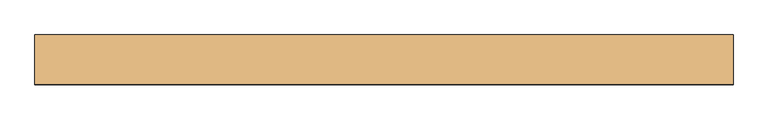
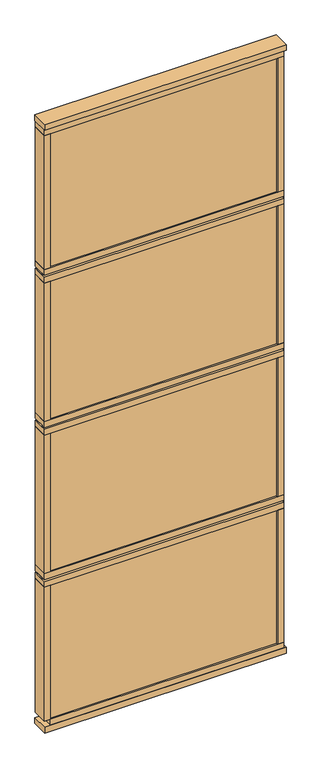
"""IFC4 building model written with IfcOpenShell, lengths in millimetres: door geometry, Mobiliário_Mobiliário de Escritório_Painel de Vidro Duplo - AV4T (Complementar)_Marelli : AV4T - Temperado."""

from ifc_helpers import new_model, si_unit, frame, origin, origin_with_axes, place, context, project, spatial, polyline, outline, extrude, source, transform, mapped, element, save


def door_cfb25988(model_context):
    return source(origin(), model_context, "Body", "SweptSolid", [
        extrude(outline(polyline([(600.0, 42.5), (600.0, -42.5), (-600.0, -42.5), (-600.0, 42.5), (600.0, 42.5)])), origin_with_axes(), (0.0, 0.0, 1.0), 30.0),
        extrude(outline(polyline([(590.0, 39.5), (590.0, -39.5), (-600.0, -39.5), (-600.0, 39.5), (590.0, 39.5)])), frame((0.0, 0.0, 2405.0), z_axis=(0.0, 0.0, 1.0), x_axis=(1.0, 0.0, 0.0)), (0.0, 0.0, 1.0), 30.0),
        extrude(outline(polyline([(-570.0, 39.5), (-570.0, -39.5), (-600.0, -39.5), (-600.0, 39.5), (-570.0, 39.5)])), frame((0.0, 0.0, 2435.0), z_axis=(0.0, 0.0, 1.0), x_axis=(1.0, 0.0, 0.0)), (0.0, 0.0, 1.0), 705.0),
        extrude(outline(polyline([(560.0, 39.5), (590.0, 39.5), (590.0, -39.5), (560.0, -39.5), (560.0, 39.5)])), frame((0.0, 0.0, 2435.0), z_axis=(0.0, 0.0, 1.0), x_axis=(1.0, 0.0, 0.0)), (0.0, 0.0, 1.0), 705.0),
        extrude(outline(polyline([(560.0, -25.5), (560.0, -31.5), (-570.0, -31.5), (-570.0, -25.5), (560.0, -25.5)])), frame((0.0, 0.0, 2435.0), z_axis=(0.0, 0.0, 1.0), x_axis=(1.0, 0.0, 0.0)), (0.0, 0.0, 1.0), 705.0),
        extrude(outline(polyline([(590.0, 21.5), (590.0, -21.5), (-600.0, -21.5), (-600.0, 21.5), (590.0, 21.5)])), frame((0.0, 0.0, 2395.0), z_axis=(0.0, 0.0, 1.0), x_axis=(1.0, 0.0, 0.0)), (0.0, 0.0, 1.0), 10.0),
        extrude(outline(polyline([(590.0, 21.5), (590.0, -21.5), (-600.0, -21.5), (-600.0, 21.5), (590.0, 21.5)])), frame((0.0, 0.0, 1595.0), z_axis=(0.0, 0.0, 1.0), x_axis=(1.0, 0.0, 0.0)), (0.0, 0.0, 1.0), 10.0),
        extrude(outline(polyline([(590.0, 21.5), (590.0, -21.5), (-600.0, -21.5), (-600.0, 21.5), (590.0, 21.5)])), frame((0.0, 0.0, 795.0), z_axis=(0.0, 0.0, 1.0), x_axis=(1.0, 0.0, 0.0)), (0.0, 0.0, 1.0), 10.0),
        extrude(outline(polyline([(590.0, 39.5), (590.0, -39.5), (-600.0, -39.5), (-600.0, 39.5), (590.0, 39.5)])), frame((0.0, 0.0, 1605.0), z_axis=(0.0, 0.0, 1.0), x_axis=(1.0, 0.0, 0.0)), (0.0, 0.0, 1.0), 30.0),
        extrude(outline(polyline([(590.0, 39.5), (590.0, -39.5), (-600.0, -39.5), (-600.0, 39.5), (590.0, 39.5)])), frame((0.0, 0.0, 2365.0), z_axis=(0.0, 0.0, 1.0), x_axis=(1.0, 0.0, 0.0)), (0.0, 0.0, 1.0), 30.0),
        extrude(outline(polyline([(590.0, 39.5), (590.0, -39.5), (-600.0, -39.5), (-600.0, 39.5), (590.0, 39.5)])), frame((0.0, 0.0, 1565.0), z_axis=(0.0, 0.0, 1.0), x_axis=(1.0, 0.0, 0.0)), (0.0, 0.0, 1.0), 30.0),
        extrude(outline(polyline([(590.0, 39.5), (590.0, -39.5), (-600.0, -39.5), (-600.0, 39.5), (590.0, 39.5)])), frame((0.0, 0.0, 805.0), z_axis=(0.0, 0.0, 1.0), x_axis=(1.0, 0.0, 0.0)), (0.0, 0.0, 1.0), 30.0),
        extrude(outline(polyline([(-570.0, 39.5), (-570.0, -39.5), (-600.0, -39.5), (-600.0, 39.5), (-570.0, 39.5)])), frame((0.0, 0.0, 60.0), z_axis=(0.0, 0.0, 1.0), x_axis=(1.0, 0.0, 0.0)), (0.0, 0.0, 1.0), 705.0),
        extrude(outline(polyline([(560.0, 39.5), (590.0, 39.5), (590.0, -39.5), (560.0, -39.5), (560.0, 39.5)])), frame((0.0, 0.0, 60.0), z_axis=(0.0, 0.0, 1.0), x_axis=(1.0, 0.0, 0.0)), (0.0, 0.0, 1.0), 705.0),
        extrude(outline(polyline([(590.0, 39.5), (590.0, -39.5), (-600.0, -39.5), (-600.0, 39.5), (590.0, 39.5)])), frame((0.0, 0.0, 765.0), z_axis=(0.0, 0.0, 1.0), x_axis=(1.0, 0.0, 0.0)), (0.0, 0.0, 1.0), 30.0),
        extrude(outline(polyline([(590.0, 39.5), (590.0, -39.5), (-570.0, -39.5), (-570.0, 39.5), (590.0, 39.5)])), frame((0.0, 0.0, 30.0), z_axis=(0.0, 0.0, 1.0), x_axis=(1.0, 0.0, 0.0)), (0.0, 0.0, 1.0), 30.0),
        extrude(outline(polyline([(560.0, -25.5), (560.0, -31.5), (-570.0, -31.5), (-570.0, -25.5), (560.0, -25.5)])), frame((0.0, 0.0, 60.0), z_axis=(0.0, 0.0, 1.0), x_axis=(1.0, 0.0, 0.0)), (0.0, 0.0, 1.0), 705.0),
        extrude(outline(polyline([(560.0, 31.5), (560.0, 25.5), (-570.0, 25.5), (-570.0, 31.5), (560.0, 31.5)])), frame((0.0, 0.0, 2435.0), z_axis=(0.0, 0.0, 1.0), x_axis=(1.0, 0.0, 0.0)), (0.0, 0.0, 1.0), 705.0),
        extrude(outline(polyline([(560.0, 31.5), (560.0, 25.5), (-570.0, 25.5), (-570.0, 31.5), (560.0, 31.5)])), frame((0.0, 0.0, 60.0), z_axis=(0.0, 0.0, 1.0), x_axis=(1.0, 0.0, 0.0)), (0.0, 0.0, 1.0), 705.0),
        extrude(outline(polyline([(600.0, 42.5), (600.0, -42.5), (-600.0, -42.5), (-600.0, 42.5), (600.0, 42.5)])), frame((0.0, 0.0, 3170.0), z_axis=(0.0, 0.0, 1.0), x_axis=(1.0, 0.0, 0.0)), (0.0, 0.0, 1.0), 30.0),
        extrude(outline(polyline([(590.0, 39.5), (590.0, -39.5), (-600.0, -39.5), (-600.0, 39.5), (590.0, 39.5)])), frame((0.0, 0.0, 3140.0), z_axis=(0.0, 0.0, 1.0), x_axis=(1.0, 0.0, 0.0)), (0.0, 0.0, 1.0), 30.0),
        extrude(outline(polyline([(590.0, 21.5), (600.0, 21.5), (600.0, -21.5), (590.0, -21.5), (590.0, 21.5)])), frame((0.0, 0.0, 30.0), z_axis=(0.0, 0.0, 1.0), x_axis=(1.0, 0.0, 0.0)), (0.0, 0.0, 1.0), 3140.0),
        extrude(outline(polyline([(-570.0, 39.5), (-570.0, -39.5), (-600.0, -39.5), (-600.0, 39.5), (-570.0, 39.5)])), frame((0.0, 0.0, 1635.0), z_axis=(0.0, 0.0, 1.0), x_axis=(1.0, 0.0, 0.0)), (0.0, 0.0, 1.0), 730.0),
        extrude(outline(polyline([(560.0, 39.5), (590.0, 39.5), (590.0, -39.5), (560.0, -39.5), (560.0, 39.5)])), frame((0.0, 0.0, 1635.0), z_axis=(0.0, 0.0, 1.0), x_axis=(1.0, 0.0, 0.0)), (0.0, 0.0, 1.0), 730.0),
        extrude(outline(polyline([(560.0, -25.5), (560.0, -31.5), (-570.0, -31.5), (-570.0, -25.5), (560.0, -25.5)])), frame((0.0, 0.0, 1635.0), z_axis=(0.0, 0.0, 1.0), x_axis=(1.0, 0.0, 0.0)), (0.0, 0.0, 1.0), 730.0),
        extrude(outline(polyline([(560.0, 31.5), (560.0, 25.5), (-570.0, 25.5), (-570.0, 31.5), (560.0, 31.5)])), frame((0.0, 0.0, 1635.0), z_axis=(0.0, 0.0, 1.0), x_axis=(1.0, 0.0, 0.0)), (0.0, 0.0, 1.0), 730.0),
        extrude(outline(polyline([(-570.0, 39.5), (-570.0, -39.5), (-600.0, -39.5), (-600.0, 39.5), (-570.0, 39.5)])), frame((0.0, 0.0, 835.0), z_axis=(0.0, 0.0, 1.0), x_axis=(1.0, 0.0, 0.0)), (0.0, 0.0, 1.0), 730.0),
        extrude(outline(polyline([(560.0, 39.5), (590.0, 39.5), (590.0, -39.5), (560.0, -39.5), (560.0, 39.5)])), frame((0.0, 0.0, 835.0), z_axis=(0.0, 0.0, 1.0), x_axis=(1.0, 0.0, 0.0)), (0.0, 0.0, 1.0), 730.0),
        extrude(outline(polyline([(560.0, -25.5), (560.0, -31.5), (-570.0, -31.5), (-570.0, -25.5), (560.0, -25.5)])), frame((0.0, 0.0, 835.0), z_axis=(0.0, 0.0, 1.0), x_axis=(1.0, 0.0, 0.0)), (0.0, 0.0, 1.0), 730.0),
        extrude(outline(polyline([(560.0, 31.5), (560.0, 25.5), (-570.0, 25.5), (-570.0, 31.5), (560.0, 31.5)])), frame((0.0, 0.0, 835.0), z_axis=(0.0, 0.0, 1.0), x_axis=(1.0, 0.0, 0.0)), (0.0, 0.0, 1.0), 730.0),
    ])


if __name__ == "__main__":
    model = new_model("IFC4")
    model_context = context("Model", 3, world=origin())
    ifc_project = project(units=[si_unit("LENGTHUNIT", "METRE", prefix="MILLI")], contexts=[model_context])
    site = spatial("IfcSite", under=ifc_project)
    building = spatial("IfcBuilding", under=site)
    placement = place(None, origin())
    door_shape = door_cfb25988(model_context)
    element("IfcDoor", 1, ObjectType="Mobiliário_Mobiliário de Escritório_Painel de Vidro Duplo - AV4T (Complementar)_Marelli : AV4T - Temperado", at=placement, inside=building, context=model_context, shape_type="MappedRepresentation", body=[
        mapped(door_shape, transform((0.0, 0.0, 0.0), x_axis=(1.0, 0.0, 0.0), y_axis=(0.0, 1.0, 0.0), z_axis=(0.0, 0.0, 1.0))),
    ])
    save(model, "model.ifc")
